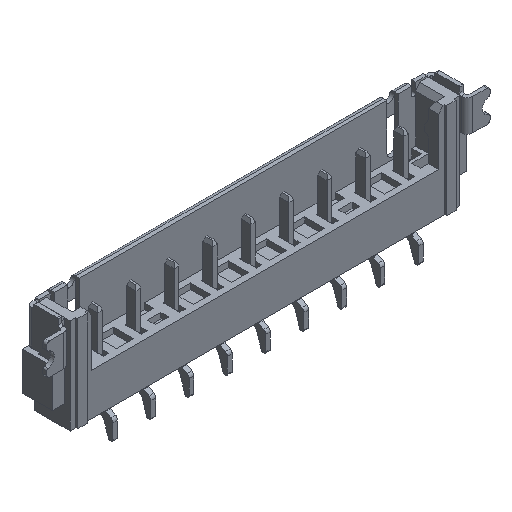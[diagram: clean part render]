
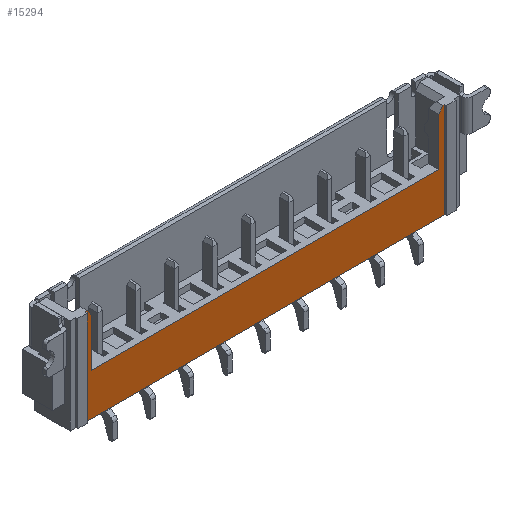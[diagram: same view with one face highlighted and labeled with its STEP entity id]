
A CAD part, isometric view. The second image highlights one B-rep face of the part: STEP entity #15294.
In plain terms, the highlighted planar face has unit normal (0, -1, 0).
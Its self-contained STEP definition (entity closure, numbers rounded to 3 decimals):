
#2230=DIRECTION('',(-1.,0.,0.));
#2231=VECTOR('',#2230,18.8);
#2232=CARTESIAN_POINT('',(20.25,0.15,-5.));
#2233=LINE('',#2232,#2231);
#2234=DIRECTION('',(0.,0.,1.));
#2235=VECTOR('',#2234,5.);
#2236=CARTESIAN_POINT('',(1.45,0.15,-5.));
#2237=LINE('',#2236,#2235);
#2238=DIRECTION('',(1.,0.,0.));
#2239=VECTOR('',#2238,0.1);
#2240=CARTESIAN_POINT('',(1.45,0.15,0.));
#2241=LINE('',#2240,#2239);
#2242=DIRECTION('',(0.555,0.,-0.832));
#2243=VECTOR('',#2242,0.361);
#2244=CARTESIAN_POINT('',(1.55,0.15,0.));
#2245=LINE('',#2244,#2243);
#2246=DIRECTION('',(0.,0.,-1.));
#2247=VECTOR('',#2246,2.5);
#2248=CARTESIAN_POINT('',(1.75,0.15,-0.3));
#2249=LINE('',#2248,#2247);
#2250=DIRECTION('',(1.,0.,0.));
#2251=VECTOR('',#2250,18.2);
#2252=CARTESIAN_POINT('',(1.75,0.15,-2.8));
#2253=LINE('',#2252,#2251);
#2254=DIRECTION('',(0.,0.,1.));
#2255=VECTOR('',#2254,2.5);
#2256=CARTESIAN_POINT('',(19.95,0.15,-2.8));
#2257=LINE('',#2256,#2255);
#2258=DIRECTION('',(0.555,0.,0.832));
#2259=VECTOR('',#2258,0.361);
#2260=CARTESIAN_POINT('',(19.95,0.15,-0.3));
#2261=LINE('',#2260,#2259);
#2262=DIRECTION('',(1.,0.,0.));
#2263=VECTOR('',#2262,0.1);
#2264=CARTESIAN_POINT('',(20.15,0.15,0.));
#2265=LINE('',#2264,#2263);
#2266=DIRECTION('',(0.,0.,-1.));
#2267=VECTOR('',#2266,5.);
#2268=CARTESIAN_POINT('',(20.25,0.15,0.));
#2269=LINE('',#2268,#2267);
#9790=CARTESIAN_POINT('',(1.45,0.15,-5.));
#9791=VERTEX_POINT('',#9790);
#9792=CARTESIAN_POINT('',(20.25,0.15,-5.));
#9793=VERTEX_POINT('',#9792);
#10352=CARTESIAN_POINT('',(19.95,0.15,-2.8));
#10353=VERTEX_POINT('',#10352);
#10354=CARTESIAN_POINT('',(1.75,0.15,-2.8));
#10355=VERTEX_POINT('',#10354);
#10564=CARTESIAN_POINT('',(1.55,0.15,0.));
#10565=VERTEX_POINT('',#10564);
#10566=CARTESIAN_POINT('',(1.45,0.15,0.));
#10567=VERTEX_POINT('',#10566);
#10604=CARTESIAN_POINT('',(1.75,0.15,-0.3));
#10605=VERTEX_POINT('',#10604);
#10606=CARTESIAN_POINT('',(19.95,0.15,-0.3));
#10607=VERTEX_POINT('',#10606);
#10608=CARTESIAN_POINT('',(20.15,0.15,0.));
#10609=VERTEX_POINT('',#10608);
#10610=CARTESIAN_POINT('',(20.25,0.15,0.));
#10611=VERTEX_POINT('',#10610);
#15272=CARTESIAN_POINT('',(10.85,0.15,-2.5));
#15273=DIRECTION('',(0.,1.,0.));
#15274=DIRECTION('',(1.,0.,0.));
#15275=AXIS2_PLACEMENT_3D('',#15272,#15273,#15274);
#15276=PLANE('',#15275);
#15277=ORIENTED_EDGE('',*,*,#12651,.T.);
#15279=ORIENTED_EDGE('',*,*,#15278,.T.);
#15280=ORIENTED_EDGE('',*,*,#15078,.T.);
#15281=ORIENTED_EDGE('',*,*,#15265,.T.);
#15282=ORIENTED_EDGE('',*,*,#15225,.T.);
#15283=ORIENTED_EDGE('',*,*,#14663,.T.);
#15285=ORIENTED_EDGE('',*,*,#15284,.T.);
#15287=ORIENTED_EDGE('',*,*,#15286,.T.);
#15289=ORIENTED_EDGE('',*,*,#15288,.T.);
#15291=ORIENTED_EDGE('',*,*,#15290,.T.);
#15292=EDGE_LOOP('',(#15277,#15279,#15280,#15281,#15282,#15283,#15285,#15287,
#15289,#15291));
#15293=FACE_OUTER_BOUND('',#15292,.F.);
#12651=EDGE_CURVE('',#9793,#9791,#2233,.T.);
#14663=EDGE_CURVE('',#10355,#10353,#2253,.T.);
#15078=EDGE_CURVE('',#10567,#10565,#2241,.T.);
#15225=EDGE_CURVE('',#10605,#10355,#2249,.T.);
#15265=EDGE_CURVE('',#10565,#10605,#2245,.T.);
#15278=EDGE_CURVE('',#9791,#10567,#2237,.T.);
#15284=EDGE_CURVE('',#10353,#10607,#2257,.T.);
#15286=EDGE_CURVE('',#10607,#10609,#2261,.T.);
#15288=EDGE_CURVE('',#10609,#10611,#2265,.T.);
#15290=EDGE_CURVE('',#10611,#9793,#2269,.T.);
#15294=ADVANCED_FACE('',(#15293),#15276,.F.);
